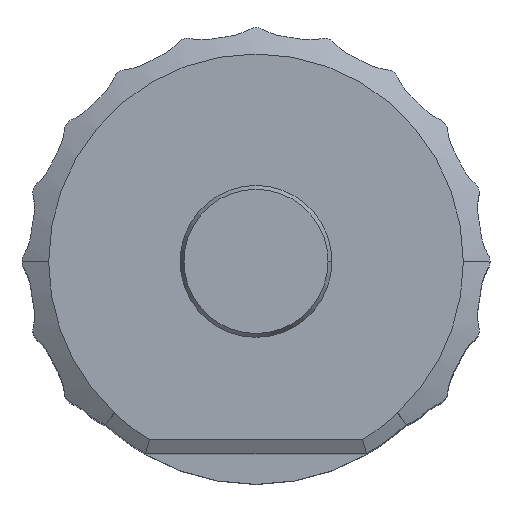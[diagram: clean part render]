
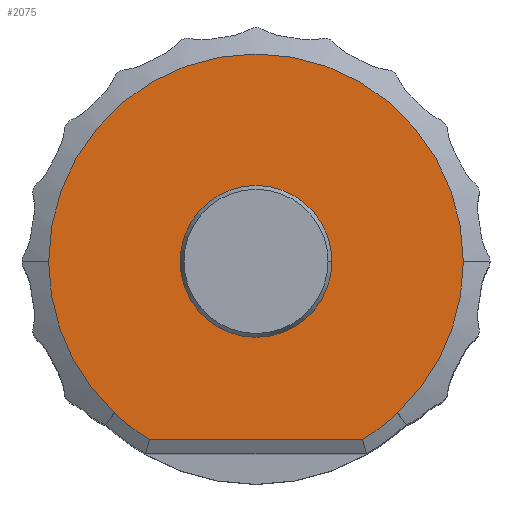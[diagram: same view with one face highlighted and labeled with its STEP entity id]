
A CAD part, top view. The second image highlights one B-rep face of the part: STEP entity #2075.
In plain terms, the highlighted planar face has unit normal (0, 0, 1).
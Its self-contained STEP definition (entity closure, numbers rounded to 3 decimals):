
#11 = DIRECTION ( 'NONE',  ( -1., 0., 0. ) ) ;
#124 = EDGE_CURVE ( 'NONE', #5430, #3489, #10044, .T. ) ;
#219 = FACE_OUTER_BOUND ( 'NONE', #5281, .T. ) ;
#366 = VERTEX_POINT ( 'NONE', #1851 ) ;
#375 = DIRECTION ( 'NONE',  ( 1., 0., 0. ) ) ;
#499 = DIRECTION ( 'NONE',  ( 0., 0., 1. ) ) ;
#525 = CARTESIAN_POINT ( 'NONE',  ( -3.115, -3.385, 0. ) ) ;
#676 = CARTESIAN_POINT ( 'NONE',  ( 0., 0., 0. ) ) ;
#776 = DIRECTION ( 'NONE',  ( 1., 0., 0. ) ) ;
#1082 = VERTEX_POINT ( 'NONE', #6834 ) ;
#1113 = VERTEX_POINT ( 'NONE', #8450 ) ;
#1235 = CIRCLE ( 'NONE', #9362, 4.306 ) ;
#1320 = DIRECTION ( 'NONE',  ( -0.589, -0.808, 0. ) ) ;
#1420 = CARTESIAN_POINT ( 'NONE',  ( 3.115, -3.385, 0. ) ) ;
#1467 = DIRECTION ( 'NONE',  ( 1., 0., 0. ) ) ;
#1530 = DIRECTION ( 'NONE',  ( 1., 0., 0. ) ) ;
#1581 = VERTEX_POINT ( 'NONE', #6083 ) ;
#1658 = CARTESIAN_POINT ( 'NONE',  ( 2.209, -3.696, 0. ) ) ;
#1766 = VECTOR ( 'NONE', #1320, 1000. ) ;
#1851 = CARTESIAN_POINT ( 'NONE',  ( -1.575, 0., 0. ) ) ;
#1893 = ORIENTED_EDGE ( 'NONE', *, *, #2709, .F. ) ;
#1938 = EDGE_CURVE ( 'NONE', #2157, #5430, #4136, .T. ) ;
#2075 = ADVANCED_FACE ( 'NONE', ( #219, #5727 ), #10119, .T. ) ;
#2157 = VERTEX_POINT ( 'NONE', #1658 ) ;
#2193 = DIRECTION ( 'NONE',  ( -0.589, 0.808, 0. ) ) ;
#2312 = DIRECTION ( 'NONE',  ( 0., 0., -1. ) ) ;
#2587 = CARTESIAN_POINT ( 'NONE',  ( 2.941, -3.145, 0. ) ) ;
#2709 = EDGE_CURVE ( 'NONE', #8489, #1113, #4328, .T. ) ;
#2912 = CARTESIAN_POINT ( 'NONE',  ( 0., 0., 0. ) ) ;
#3165 = EDGE_CURVE ( 'NONE', #8489, #4659, #3721, .T. ) ;
#3223 = CIRCLE ( 'NONE', #6464, 1.575 ) ;
#3402 = CARTESIAN_POINT ( 'NONE',  ( 2.937, -3.14, 0. ) ) ;
#3461 = LINE ( 'NONE', #10061, #7139 ) ;
#3489 = VERTEX_POINT ( 'NONE', #3402 ) ;
#3701 = DIRECTION ( 'NONE',  ( -1., 0., 0. ) ) ;
#3711 = EDGE_CURVE ( 'NONE', #1082, #3489, #9724, .T. ) ;
#3721 = LINE ( 'NONE', #525, #1766 ) ;
#4021 = ORIENTED_EDGE ( 'NONE', *, *, #7050, .T. ) ;
#4136 = CIRCLE ( 'NONE', #4387, 4.306 ) ;
#4186 = AXIS2_PLACEMENT_3D ( 'NONE', #676, #6143, #1467 ) ;
#4328 = CIRCLE ( 'NONE', #5854, 4.3 ) ;
#4372 = AXIS2_PLACEMENT_3D ( 'NONE', #9387, #4689, #11 ) ;
#4387 = AXIS2_PLACEMENT_3D ( 'NONE', #5186, #499, #5969 ) ;
#4525 = ORIENTED_EDGE ( 'NONE', *, *, #124, .T. ) ;
#4659 = VERTEX_POINT ( 'NONE', #6123 ) ;
#4689 = DIRECTION ( 'NONE',  ( 0., 0., -1. ) ) ;
#4949 = AXIS2_PLACEMENT_3D ( 'NONE', #2912, #8389, #3701 ) ;
#5003 = ORIENTED_EDGE ( 'NONE', *, *, #3165, .T. ) ;
#5062 = DIRECTION ( 'NONE',  ( 0., 0., 1. ) ) ;
#5186 = CARTESIAN_POINT ( 'NONE',  ( 0., 0., 0. ) ) ;
#5213 = EDGE_CURVE ( 'NONE', #6049, #2157, #3461, .T. ) ;
#5257 = EDGE_CURVE ( 'NONE', #1581, #366, #3223, .T. ) ;
#5281 = EDGE_LOOP ( 'NONE', ( #5003, #4021, #7633, #8918, #4525, #6285, #6116, #1893 ) ) ;
#5430 = VERTEX_POINT ( 'NONE', #2587 ) ;
#5466 = DIRECTION ( 'NONE',  ( 0., 0., 1. ) ) ;
#5627 = VECTOR ( 'NONE', #2193, 1000. ) ;
#5727 = FACE_BOUND ( 'NONE', #9622, .T. ) ;
#5854 = AXIS2_PLACEMENT_3D ( 'NONE', #7010, #2312, #7806 ) ;
#5969 = DIRECTION ( 'NONE',  ( 1., 0., 0. ) ) ;
#6049 = VERTEX_POINT ( 'NONE', #7072 ) ;
#6083 = CARTESIAN_POINT ( 'NONE',  ( 1.575, 0., 0. ) ) ;
#6116 = ORIENTED_EDGE ( 'NONE', *, *, #8728, .F. ) ;
#6123 = CARTESIAN_POINT ( 'NONE',  ( -2.941, -3.145, 0. ) ) ;
#6143 = DIRECTION ( 'NONE',  ( 0., 0., 1. ) ) ;
#6210 = DIRECTION ( 'NONE',  ( 0., 0., 1. ) ) ;
#6285 = ORIENTED_EDGE ( 'NONE', *, *, #3711, .F. ) ;
#6464 = AXIS2_PLACEMENT_3D ( 'NONE', #10156, #5466, #776 ) ;
#6834 = CARTESIAN_POINT ( 'NONE',  ( 4.3, 0., 0. ) ) ;
#7010 = CARTESIAN_POINT ( 'NONE',  ( 0., 0., 0. ) ) ;
#7050 = EDGE_CURVE ( 'NONE', #4659, #6049, #1235, .T. ) ;
#7072 = CARTESIAN_POINT ( 'NONE',  ( -2.209, -3.696, 0. ) ) ;
#7139 = VECTOR ( 'NONE', #8515, 1000. ) ;
#7410 = CARTESIAN_POINT ( 'NONE',  ( -2.937, -3.14, 0. ) ) ;
#7415 = ORIENTED_EDGE ( 'NONE', *, *, #5257, .F. ) ;
#7633 = ORIENTED_EDGE ( 'NONE', *, *, #5213, .T. ) ;
#7688 = CIRCLE ( 'NONE', #4372, 4.3 ) ;
#7806 = DIRECTION ( 'NONE',  ( -1., 0., 0. ) ) ;
#8234 = ORIENTED_EDGE ( 'NONE', *, *, #9225, .F. ) ;
#8389 = DIRECTION ( 'NONE',  ( 0., 0., -1. ) ) ;
#8450 = CARTESIAN_POINT ( 'NONE',  ( -4.3, 0., 0. ) ) ;
#8489 = VERTEX_POINT ( 'NONE', #7410 ) ;
#8513 = CARTESIAN_POINT ( 'NONE',  ( 0., 0., 0. ) ) ;
#8515 = DIRECTION ( 'NONE',  ( 1., 0., 0. ) ) ;
#8728 = EDGE_CURVE ( 'NONE', #1113, #1082, #7688, .T. ) ;
#8918 = ORIENTED_EDGE ( 'NONE', *, *, #1938, .T. ) ;
#9225 = EDGE_CURVE ( 'NONE', #366, #1581, #9397, .T. ) ;
#9362 = AXIS2_PLACEMENT_3D ( 'NONE', #9761, #5062, #375 ) ;
#9387 = CARTESIAN_POINT ( 'NONE',  ( 0., 0., 0. ) ) ;
#9397 = CIRCLE ( 'NONE', #4186, 1.575 ) ;
#9622 = EDGE_LOOP ( 'NONE', ( #7415, #8234 ) ) ;
#9649 = AXIS2_PLACEMENT_3D ( 'NONE', #8513, #6210, #1530 ) ;
#9724 = CIRCLE ( 'NONE', #4949, 4.3 ) ;
#9761 = CARTESIAN_POINT ( 'NONE',  ( 0., 0., 0. ) ) ;
#10044 = LINE ( 'NONE', #1420, #5627 ) ;
#10061 = CARTESIAN_POINT ( 'NONE',  ( 0., -3.696, 0. ) ) ;
#10119 = PLANE ( 'NONE',  #9649 ) ;
#10156 = CARTESIAN_POINT ( 'NONE',  ( 0., 0., 0. ) ) ;
